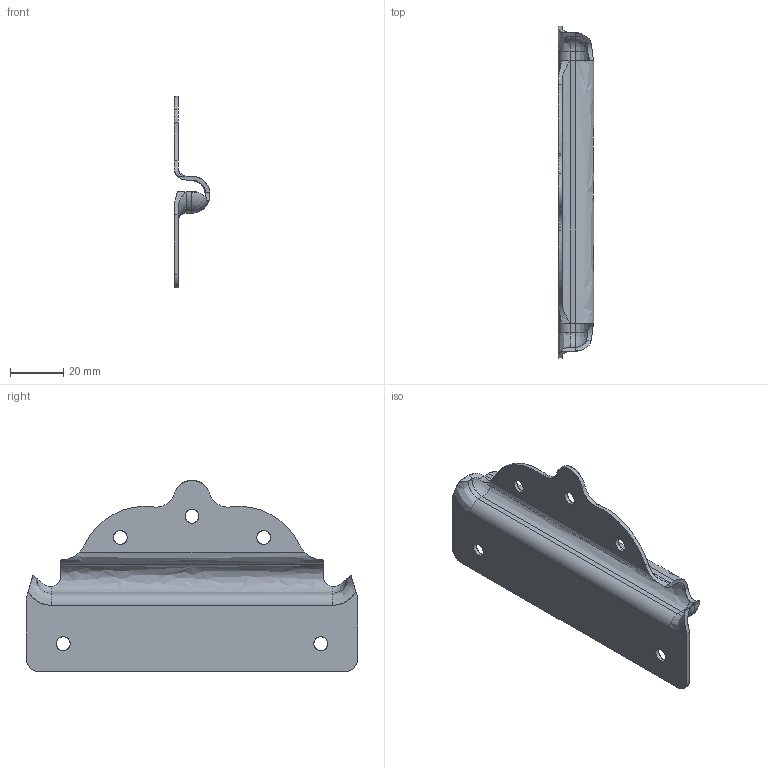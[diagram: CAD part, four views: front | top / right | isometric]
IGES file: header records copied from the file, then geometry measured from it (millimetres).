
Start section: SolidWorks IGES FILE using analytic representation for surfaces
Global section: file name: C:\Documents and Settings\lecoutey\Bureau\POF 306\POF 306 BR.IGS; native system: SolidWorks 2004 by SolidWorks Corporation; preprocessor: Version 5.3; author: lecoutey; date: 050408.140418; units: millimetre
Bounding box: 13.5 x 125 x 72 mm (x, y, z)
Surface area: 17182.8 mm2 (no closed solid volume)
Topology: 0 solids, 0 shells, 65 faces, 1120 edges, 1120 vertices
Faces by surface type: revolution 38, bspline 27
